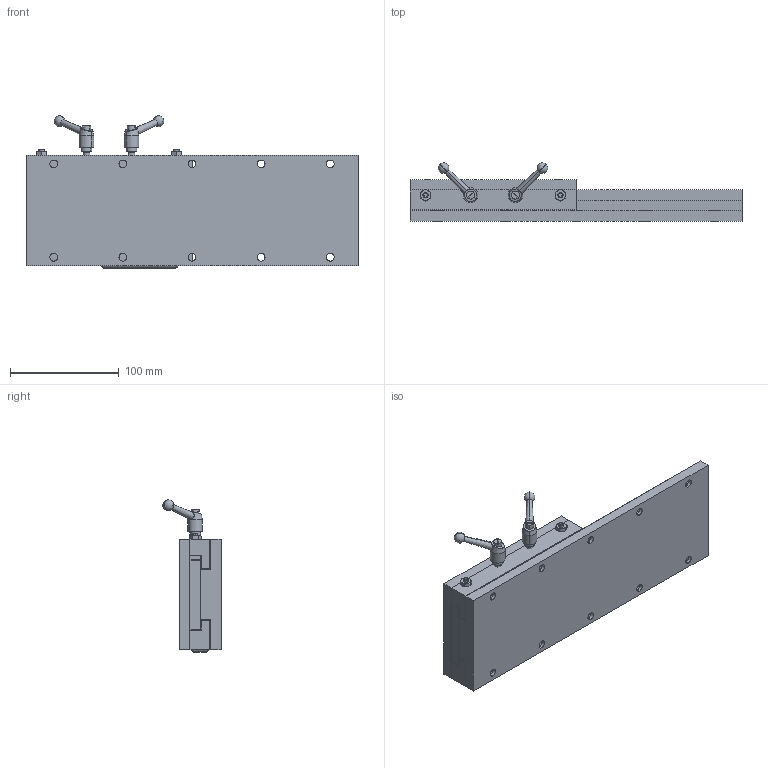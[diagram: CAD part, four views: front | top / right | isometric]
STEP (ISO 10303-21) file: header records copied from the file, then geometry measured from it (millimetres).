
FILE_DESCRIPTION (( 'STEP AP214' ), '1' );
FILE_NAME ('SW04-SL06-BL12-LH.STEP', '2011-06-16T19:25:25', ( '' ), ( '' ), 'SwSTEP 2.0', 'SolidWorks 2011', '' );
FILE_SCHEMA (( 'AUTOMOTIVE_DESIGN' ));
Length unit declared in the file: inch
Products named in the file (13): KHB_56; _MSHXNUT_MSHXNUT 0.190-32-D-N; _SSCUPSOC_SSCUPSKT 0.19-32x0.875-HX-N; Tag; Gen2 Bar_04x06 BAR; Gen2 Adj Gib_04x06 ADJ GIB; Gen2 Gib_04x06 GIB; Gen2 Top plate_04x06 TPLATE; Gen2 BASE_04x12 BASE; Gen2 Hardplate_04x12 HPLATE; Gen2 Baseplate_04x12 BASE; SW04-SL06-BL12-LH; Gen2 SADDLE_04x06 SADDLE with LOCK HANDLES
Assembly tree (15 placements, depth 3):
  SW04-SL06-BL12-LH
    Gen2 SADDLE_04x06 SADDLE with LOCK HANDLES
      Gen2 Top plate_04x06 TPLATE
      KHB_56  x2
      _SSCUPSOC_SSCUPSKT 0.19-32x0.875-HX-N  x2
      _MSHXNUT_MSHXNUT 0.190-32-D-N  x2
      Tag
      Gen2 Bar_04x06 BAR
      Gen2 Adj Gib_04x06 ADJ GIB
      Gen2 Gib_04x06 GIB
    Gen2 BASE_04x12 BASE
      Gen2 Hardplate_04x12 HPLATE
      Gen2 Baseplate_04x12 BASE
Bounding box: 304.8 x 53.43 x 139.75 mm (x, y, z)
Volume: 890908.4 mm3; surface area: 236008.4 mm2
Topology: 18 solids, 18 shells, 316 faces, 714 edges, 444 vertices
Faces by surface type: plane 144, cylinder 96, cone 68, sphere 4, bspline 4
Entity records: 8499 total; most frequent: CARTESIAN_POINT 2128, DIRECTION 1198, ORIENTED_EDGE 1076, EDGE_CURVE 538, AXIS2_PLACEMENT_3D 445, VERTEX_POINT 345, LINE 308, VECTOR 308
